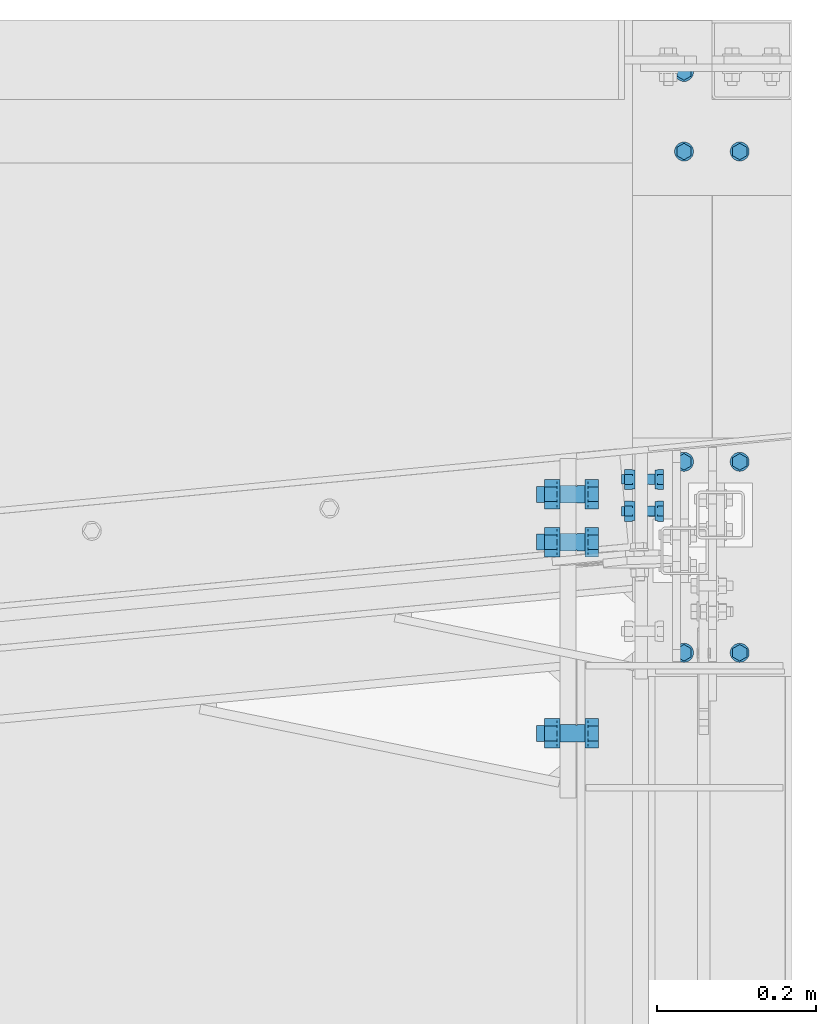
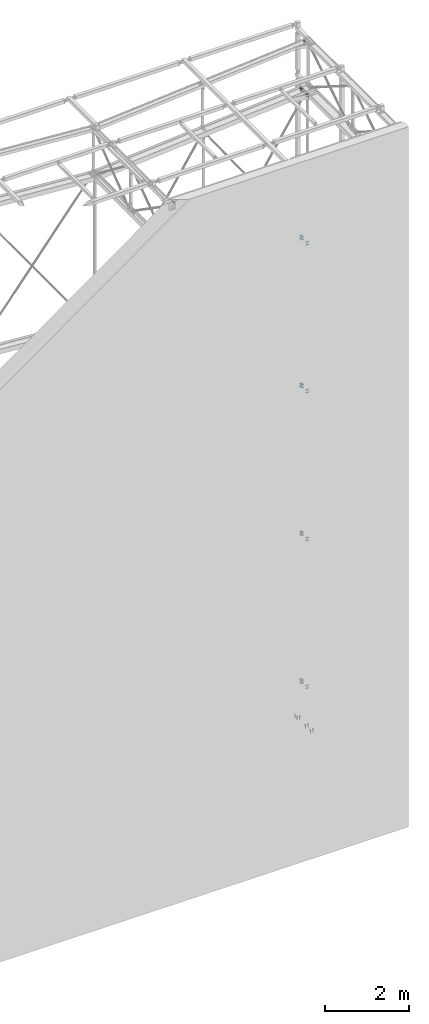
# One storey, part 227 of 271: 13 mechanical fasteners, 7 elements without a shape of their own.
"""IFC2X3 building model written with IfcOpenShell, lengths in millimetres."""

from ifc_helpers import new_model, si_unit, frame, origin_with_axes, origin_2d_with_axis, place, context, subcontext, project, spatial, polyline, circle, outline, extrude, source, transform, mapped, material, type_object, element, aggregate, save


model = new_model("IFC2X3")

# Units and contexts
model_context = context("Model", 3, precision=1e-05, world=origin_with_axes())
body_context = subcontext(model_context, "Body", "Model", "MODEL_VIEW")
ifc_project = project(units=[si_unit("LENGTHUNIT", "METRE", prefix="MILLI"), si_unit("AREAUNIT", "SQUARE_METRE"), si_unit("VOLUMEUNIT", "CUBIC_METRE"), si_unit("MASSUNIT", "GRAM", prefix="KILO"), si_unit("TIMEUNIT", "SECOND"), si_unit("PLANEANGLEUNIT", "RADIAN"), si_unit("SOLIDANGLEUNIT", "STERADIAN"), si_unit("THERMODYNAMICTEMPERATUREUNIT", "DEGREE_CELSIUS"), si_unit("LUMINOUSINTENSITYUNIT", "LUMEN")], contexts=[model_context])

# Site, building, storey
site_placement = place(None, origin_with_axes())
site = spatial("IfcSite", under=ifc_project, at=site_placement, Name="Undefined", CompositionType="ELEMENT")
building_placement = place(site_placement, origin_with_axes())
building = spatial("IfcBuilding", under=site, at=building_placement, Name="Undefined", CompositionType="ELEMENT")
storey_placement = place(building_placement, origin_with_axes())
storey = spatial("IfcBuildingStorey", under=building, at=storey_placement, Name="Undefined", CompositionType="ELEMENT", Elevation=0.0)

# Assembly, mechanical fasteners
assembly_1_placement = place(storey_placement, origin_with_axes())
assembly_1 = element("IfcElementAssembly", 1, at=assembly_1_placement, inside=storey, AssemblyPlace="NOTDEFINED", PredefinedType="REINFORCEMENT_UNIT")
ifc_material = material(Name="Undefined")
mechanical_fastener_type = type_object("IfcMechanicalFastenerType", Name="Bolt assembly")
shared_shape_1 = source(origin_with_axes(), body_context, "Body", "SweptSolid", [
    extrude(circle(Radius=7.0, at=origin_2d_with_axis()), frame((0.0, 0.0, 0.0), z_axis=(0.0, 1.0, 0.0), x_axis=(1.0, 0.0, 0.0)), (0.0, 0.0, 1.0), 16.1),
    extrude(outline(polyline([(10.39230484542, 0.0), (5.19615242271, 9.00000000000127), (-5.19615242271, 9.00000000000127), (-10.39230484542, 0.0), (-5.19615242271, -9.00000000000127), (5.19615242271, -9.00000000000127), (10.39230484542, 0.0)])), frame((0.0, -7.5, 0.0), z_axis=(0.0, 1.0, 0.0), x_axis=(1.0, 0.0, 0.0)), (0.0, 0.0, 1.0), 7.5),
    extrude(circle(Radius=6.0, at=origin_2d_with_axis()), frame((0.0, 0.0, 0.0), z_axis=(0.0, 1.0, 0.0), x_axis=(1.0, 0.0, 0.0)), (0.0, 0.0, 1.0), 100.0),
    extrude(circle(Radius=12.0, at=origin_2d_with_axis()), frame((0.0, 16.0, 0.0), z_axis=(0.0, 1.0, 0.0), x_axis=(1.0, 0.0, 0.0)), (0.0, 0.0, 1.0), 2.5),
    extrude(outline(polyline([(10.96965511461, 0.0), (5.484827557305, 9.50000000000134), (-5.484827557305, 9.50000000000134), (-10.96965511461, 0.0), (-5.484827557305, -9.50000000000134), (5.484827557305, -9.50000000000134), (10.96965511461, 0.0)])), frame((0.0, 18.5, 0.0), z_axis=(0.0, 1.0, 0.0), x_axis=(1.0, 0.0, 0.0)), (0.0, 0.0, 1.0), 10.0),
])
mechanical_fastener_1_placement = place(assembly_1_placement, frame((12607.9999999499, 4894.0, 0.0), z_axis=(1.0, 0.0, 0.0), x_axis=(0.0, -1.0, 0.0)))
mechanical_fastener_1 = element("IfcMechanicalFastener", 2, at=mechanical_fastener_1_placement, type_object=mechanical_fastener_type, material=ifc_material, Name="Bolt assembly", NominalDiameter=12.0, NominalLength=100.0, context=body_context, shape_type="MappedRepresentation", body=[
    mapped(shared_shape_1, transform((-4.83169060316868e-13, 0.0, -35.0))),
    mapped(shared_shape_1, transform((100.000000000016, 0.0, -34.9999999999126))),
    mapped(shared_shape_1, transform((99.9999999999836, 0.0, 35.0000000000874))),
])
mechanical_fastener_2_placement = place(assembly_1_placement, frame((12607.9999999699, 4404.0, 0.0), z_axis=(1.0, 0.0, 0.0), x_axis=(0.0, -1.0, 0.0)))
mechanical_fastener_2 = element("IfcMechanicalFastener", 3, at=mechanical_fastener_2_placement, type_object=mechanical_fastener_type, material=ifc_material, Name="Bolt assembly", NominalDiameter=12.0, NominalLength=100.0, context=body_context, shape_type="MappedRepresentation", body=[
    mapped(shared_shape_1, transform((-4.83169060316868e-13, 0.0, -35.0))),
    mapped(shared_shape_1, transform((240.000000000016, 0.0, -34.9999999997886))),
    mapped(shared_shape_1, transform((5.11590769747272e-13, 0.0, 35.0))),
    mapped(shared_shape_1, transform((239.999999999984, 0.0, 35.0000000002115))),
])
aggregate(assembly_1, [mechanical_fastener_1, mechanical_fastener_2])

# Assembly, mechanical fastener
assembly_2_placement = place(storey_placement, origin_with_axes())
assembly_2 = element("IfcElementAssembly", 4, at=assembly_2_placement, inside=storey, AssemblyPlace="NOTDEFINED", PredefinedType="RIGID_FRAME")
shared_shape_2 = source(origin_with_axes(), body_context, "Body", "SweptSolid", [
    extrude(circle(Radius=6.5, at=origin_2d_with_axis()), frame((0.0, -15.9000000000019, 0.0), z_axis=(0.0, 1.0, 0.0), x_axis=(1.0, 0.0, 0.0)), (0.0, 0.0, 1.0), 8.0),
    extrude(circle(Radius=6.5, at=origin_2d_with_axis()), frame((0.0, -7.10000000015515, 0.0), z_axis=(0.0, 1.0, 0.0), x_axis=(1.0, 0.0, 0.0)), (0.0, 0.0, 1.0), 16.1),
    extrude(outline(polyline([(12.70170592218, 0.0), (6.35085296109, 11.0000000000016), (-6.35085296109, 11.0000000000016), (-12.70170592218, 0.0), (-6.35085296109, -11.0000000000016), (6.35085296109, -11.0000000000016), (12.70170592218, 0.0)])), frame((0.0, -27.0, 0.0), z_axis=(0.0, 1.0, 0.0), x_axis=(1.0, 0.0, 0.0)), (0.0, 0.0, 1.0), 8.0),
    extrude(circle(Radius=6.0, at=origin_2d_with_axis()), frame((0.0, -19.0000000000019, 0.0), z_axis=(0.0, 1.0, 0.0), x_axis=(1.0, 0.0, 0.0)), (0.0, 0.0, 1.0), 45.0),
    extrude(circle(Radius=12.0, at=origin_2d_with_axis()), frame((0.0, -19.0000000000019, 0.0), z_axis=(0.0, 1.0, 0.0), x_axis=(1.0, 0.0, 0.0)), (0.0, 0.0, 1.0), 3.0),
    extrude(circle(Radius=12.0, at=origin_2d_with_axis()), frame((0.0, 9.0, 0.0), z_axis=(0.0, 1.0, 0.0), x_axis=(1.0, 0.0, 0.0)), (0.0, 0.0, 1.0), 3.0),
    extrude(outline(polyline([(12.70170592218, 0.0), (6.35085296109, 11.0000000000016), (-6.35085296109, 11.0000000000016), (-12.70170592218, 0.0), (-6.35085296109, -11.0000000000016), (6.35085296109, -11.0000000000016), (12.70170592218, 0.0)])), frame((0.0, 11.9999999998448, 0.0), z_axis=(0.0, 1.0, 0.0), x_axis=(1.0, 0.0, 0.0)), (0.0, 0.0, 1.0), 10.0),
])
mechanical_fastener_3_placement = place(assembly_2_placement, frame((12520.3756870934, 4381.93891223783, 20004.3499999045), z_axis=(0.0, 0.0, -1.0), x_axis=(0.0, -1.0, 0.0)))
mechanical_fastener_3 = element("IfcMechanicalFastener", 5, at=mechanical_fastener_3_placement, type_object=mechanical_fastener_type, material=ifc_material, Name="Bolt assembly", NominalDiameter=12.0, NominalLength=45.0, context=body_context, shape_type="MappedRepresentation", body=[
    mapped(shared_shape_2, transform((0.0, 0.0, -25.0))),
    mapped(shared_shape_2, transform((0.0, 0.0, 25.0))),
    mapped(shared_shape_2, transform((40.0, -1.13686837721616e-13, -25.0))),
    mapped(shared_shape_2, transform((40.0, -1.13686837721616e-13, 25.0))),
])
aggregate(assembly_2, [mechanical_fastener_3])

# Assembly, mechanical fasteners
assembly_3_placement = place(storey_placement, origin_with_axes())
assembly_3 = element("IfcElementAssembly", 6, at=assembly_3_placement, inside=storey, AssemblyPlace="NOTDEFINED", PredefinedType="RIGID_FRAME")
shared_shape_3 = source(origin_with_axes(), body_context, "Body", "SweptSolid", [
    extrude(circle(Radius=11.0, at=origin_2d_with_axis()), frame((0.0, -19.8999999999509, 0.0), z_axis=(0.0, 1.0, 0.0), x_axis=(1.0, 0.0, 0.0)), (0.0, 0.0, 1.0), 10.2),
    extrude(circle(Radius=11.0, at=origin_2d_with_axis()), frame((0.0, -8.90000018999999, 0.0), z_axis=(0.0, 1.0, 0.0), x_axis=(1.0, 0.0, 0.0)), (0.0, 0.0, 1.0), 20.1),
    extrude(outline(polyline([(18.47520861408, 0.0), (9.23760430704, 16.0000000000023), (-9.23760430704, 16.0000000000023), (-18.47520861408, 0.0), (-9.23760430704, -16.0000000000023), (9.23760430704, -16.0000000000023), (18.47520861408, 0.0)])), frame((0.0, -37.0000000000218, 0.0), z_axis=(0.0, 1.0, 0.0), x_axis=(1.0, 0.0, 0.0)), (0.0, 0.0, 1.0), 13.0),
    extrude(circle(Radius=10.0, at=origin_2d_with_axis()), frame((0.0, -24.0000000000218, 0.0), z_axis=(0.0, 1.0, 0.0), x_axis=(1.0, 0.0, 0.0)), (0.0, 0.0, 1.0), 65.0),
    extrude(circle(Radius=18.5, at=origin_2d_with_axis()), frame((0.0, -24.0000000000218, 0.0), z_axis=(0.0, 1.0, 0.0), x_axis=(1.0, 0.0, 0.0)), (0.0, 0.0, 1.0), 4.0),
    extrude(circle(Radius=18.5, at=origin_2d_with_axis()), frame((0.0, 11.19999981, 0.0), z_axis=(0.0, 1.0, 0.0), x_axis=(1.0, 0.0, 0.0)), (0.0, 0.0, 1.0), 4.0),
    extrude(outline(polyline([(18.47520861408, 0.0), (9.23760430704, 16.0000000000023), (-9.23760430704, 16.0000000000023), (-18.47520861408, 0.0), (-9.23760430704, -16.0000000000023), (9.23760430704, -16.0000000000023), (18.47520861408, 0.0)])), frame((0.0, 15.19999981, 0.0), z_axis=(0.0, 1.0, 0.0), x_axis=(1.0, 0.0, 0.0)), (0.0, 0.0, 1.0), 16.0),
])
mechanical_fastener_4_placement = place(assembly_3_placement, frame((12428.5756869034, 4062.62364231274, 5684.34999990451), z_axis=(0.0, 0.0, 1.0), x_axis=(0.0, 1.0, 0.0)))
mechanical_fastener_4 = element("IfcMechanicalFastener", 7, at=mechanical_fastener_4_placement, type_object=mechanical_fastener_type, material=ifc_material, Name="Bolt assembly", NominalDiameter=20.0, NominalLength=65.0, context=body_context, shape_type="MappedRepresentation", body=[
    mapped(shared_shape_3, transform((0.0, 0.0, -37.5))),
    mapped(shared_shape_3, transform((0.0, 0.0, 37.5))),
])
mechanical_fastener_5_placement = place(assembly_3_placement, frame((12428.5756869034, 4363.07098767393, 5684.34999990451), z_axis=(0.0, 0.0, -1.0), x_axis=(0.0, -1.0, 0.0)))
mechanical_fastener_5 = element("IfcMechanicalFastener", 8, at=mechanical_fastener_5_placement, type_object=mechanical_fastener_type, material=ifc_material, Name="Bolt assembly", NominalDiameter=20.0, NominalLength=65.0, context=body_context, shape_type="MappedRepresentation", body=[
    mapped(shared_shape_3, transform((0.0, 0.0, -37.5))),
    mapped(shared_shape_3, transform((0.0, 0.0, 37.5))),
    mapped(shared_shape_3, transform((60.0, 0.0, -37.5))),
    mapped(shared_shape_3, transform((60.0, 0.0, 37.5))),
])
aggregate(assembly_3, [mechanical_fastener_4, mechanical_fastener_5])

assembly_4_placement = place(storey_placement, origin_with_axes())
assembly_4 = element("IfcElementAssembly", 9, at=assembly_4_placement, inside=storey, AssemblyPlace="NOTDEFINED", PredefinedType="RIGID_FRAME")
mechanical_fastener_6_placement = place(assembly_4_placement, frame((12428.5756869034, 4062.62364231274, 10004.3499999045), z_axis=(0.0, 0.0, 1.0), x_axis=(0.0, 1.0, 0.0)))
mechanical_fastener_6 = element("IfcMechanicalFastener", 10, at=mechanical_fastener_6_placement, type_object=mechanical_fastener_type, material=ifc_material, Name="Bolt assembly", NominalDiameter=20.0, NominalLength=65.0, context=body_context, shape_type="MappedRepresentation", body=[
    mapped(shared_shape_3, transform((0.0, 0.0, -37.5))),
    mapped(shared_shape_3, transform((0.0, 0.0, 37.5))),
])
mechanical_fastener_7_placement = place(assembly_4_placement, frame((12428.5756869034, 4363.07098767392, 10004.3499999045), z_axis=(0.0, 0.0, -1.0), x_axis=(0.0, -1.0, 0.0)))
mechanical_fastener_7 = element("IfcMechanicalFastener", 11, at=mechanical_fastener_7_placement, type_object=mechanical_fastener_type, material=ifc_material, Name="Bolt assembly", NominalDiameter=20.0, NominalLength=65.0, context=body_context, shape_type="MappedRepresentation", body=[
    mapped(shared_shape_3, transform((0.0, 0.0, -37.5))),
    mapped(shared_shape_3, transform((0.0, 0.0, 37.5))),
    mapped(shared_shape_3, transform((60.0, 0.0, -37.5))),
    mapped(shared_shape_3, transform((60.0, 0.0, 37.5))),
])
aggregate(assembly_4, [mechanical_fastener_6, mechanical_fastener_7])

assembly_5_placement = place(storey_placement, origin_with_axes())
assembly_5 = element("IfcElementAssembly", 12, at=assembly_5_placement, inside=storey, AssemblyPlace="NOTDEFINED", PredefinedType="RIGID_FRAME")
mechanical_fastener_8_placement = place(assembly_5_placement, frame((12428.5756869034, 4062.62364231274, 14324.3499999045), z_axis=(0.0, 0.0, 1.0), x_axis=(0.0, 1.0, 0.0)))
mechanical_fastener_8 = element("IfcMechanicalFastener", 13, at=mechanical_fastener_8_placement, type_object=mechanical_fastener_type, material=ifc_material, Name="Bolt assembly", NominalDiameter=20.0, NominalLength=65.0, context=body_context, shape_type="MappedRepresentation", body=[
    mapped(shared_shape_3, transform((0.0, 0.0, -37.5))),
    mapped(shared_shape_3, transform((0.0, 0.0, 37.5))),
])
mechanical_fastener_9_placement = place(assembly_5_placement, frame((12428.5756869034, 4363.07098767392, 14324.3499999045), z_axis=(0.0, 0.0, -1.0), x_axis=(0.0, -1.0, 0.0)))
mechanical_fastener_9 = element("IfcMechanicalFastener", 14, at=mechanical_fastener_9_placement, type_object=mechanical_fastener_type, material=ifc_material, Name="Bolt assembly", NominalDiameter=20.0, NominalLength=65.0, context=body_context, shape_type="MappedRepresentation", body=[
    mapped(shared_shape_3, transform((0.0, 0.0, -37.5))),
    mapped(shared_shape_3, transform((0.0, 0.0, 37.5))),
    mapped(shared_shape_3, transform((60.0, 0.0, -37.5))),
    mapped(shared_shape_3, transform((60.0, 0.0, 37.5))),
])
aggregate(assembly_5, [mechanical_fastener_8, mechanical_fastener_9])

assembly_6_placement = place(storey_placement, origin_with_axes())
assembly_6 = element("IfcElementAssembly", 15, at=assembly_6_placement, inside=storey, AssemblyPlace="NOTDEFINED", PredefinedType="RIGID_FRAME")
mechanical_fastener_10_placement = place(assembly_6_placement, frame((12428.5756869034, 4062.62364231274, 18644.3499999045), z_axis=(0.0, 0.0, 1.0), x_axis=(0.0, 1.0, 0.0)))
mechanical_fastener_10 = element("IfcMechanicalFastener", 16, at=mechanical_fastener_10_placement, type_object=mechanical_fastener_type, material=ifc_material, Name="Bolt assembly", NominalDiameter=20.0, NominalLength=65.0, context=body_context, shape_type="MappedRepresentation", body=[
    mapped(shared_shape_3, transform((0.0, 0.0, -37.5))),
    mapped(shared_shape_3, transform((0.0, 0.0, 37.5))),
])
mechanical_fastener_11_placement = place(assembly_6_placement, frame((12428.5756869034, 4363.07098767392, 18644.3499999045), z_axis=(0.0, 0.0, -1.0), x_axis=(0.0, -1.0, 0.0)))
mechanical_fastener_11 = element("IfcMechanicalFastener", 17, at=mechanical_fastener_11_placement, type_object=mechanical_fastener_type, material=ifc_material, Name="Bolt assembly", NominalDiameter=20.0, NominalLength=65.0, context=body_context, shape_type="MappedRepresentation", body=[
    mapped(shared_shape_3, transform((0.0, 0.0, -37.5))),
    mapped(shared_shape_3, transform((0.0, 0.0, 37.5))),
    mapped(shared_shape_3, transform((60.0, 0.0, -37.5))),
    mapped(shared_shape_3, transform((60.0, 0.0, 37.5))),
])
aggregate(assembly_6, [mechanical_fastener_10, mechanical_fastener_11])

assembly_7_placement = place(storey_placement, origin_with_axes())
assembly_7 = element("IfcElementAssembly", 18, at=assembly_7_placement, inside=storey, AssemblyPlace="NOTDEFINED", PredefinedType="RIGID_FRAME")
mechanical_fastener_12_placement = place(assembly_7_placement, frame((12428.5756869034, 4062.62364231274, 1364.34999990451), z_axis=(0.0, 0.0, 1.0), x_axis=(0.0, 1.0, 0.0)))
mechanical_fastener_12 = element("IfcMechanicalFastener", 19, at=mechanical_fastener_12_placement, type_object=mechanical_fastener_type, material=ifc_material, Name="Bolt assembly", NominalDiameter=20.0, NominalLength=65.0, context=body_context, shape_type="MappedRepresentation", body=[
    mapped(shared_shape_3, transform((0.0, 0.0, -37.5))),
    mapped(shared_shape_3, transform((0.0, 0.0, 37.5))),
])
mechanical_fastener_13_placement = place(assembly_7_placement, frame((12428.5756869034, 4363.07098767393, 1364.34999990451), z_axis=(0.0, 0.0, -1.0), x_axis=(0.0, -1.0, 0.0)))
mechanical_fastener_13 = element("IfcMechanicalFastener", 20, at=mechanical_fastener_13_placement, type_object=mechanical_fastener_type, material=ifc_material, Name="Bolt assembly", NominalDiameter=20.0, NominalLength=65.0, context=body_context, shape_type="MappedRepresentation", body=[
    mapped(shared_shape_3, transform((0.0, 0.0, -37.5))),
    mapped(shared_shape_3, transform((0.0, 0.0, 37.5))),
    mapped(shared_shape_3, transform((60.0, 0.0, -37.5))),
    mapped(shared_shape_3, transform((60.0, 0.0, 37.5))),
])
aggregate(assembly_7, [mechanical_fastener_12, mechanical_fastener_13])

save(model, "model.ifc")
